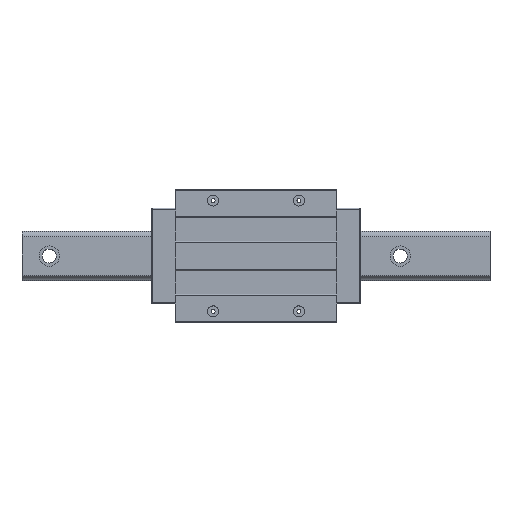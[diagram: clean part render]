
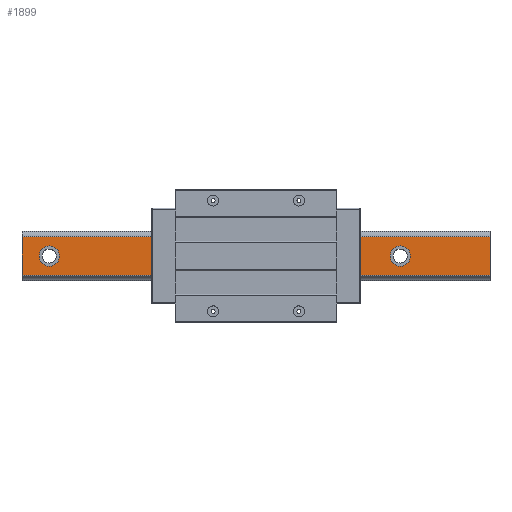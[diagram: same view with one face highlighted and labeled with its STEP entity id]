
A CAD part, top view. The second image highlights one B-rep face of the part: STEP entity #1899.
In plain terms, the highlighted planar face has unit normal (0, 0, 1).
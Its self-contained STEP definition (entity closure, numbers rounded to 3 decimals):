
#42 = DIRECTION ( 'NONE',  ( 0., 0., -1. ) ) ;
#174 = EDGE_CURVE ( 'NONE', #2444, #2976, #317, .T. ) ;
#317 = CIRCLE ( 'NONE', #2349, 13. ) ;
#326 = FACE_OUTER_BOUND ( 'NONE', #4029, .T. ) ;
#415 = CARTESIAN_POINT ( 'NONE',  ( -300., -24.864, 53. ) ) ;
#463 = ORIENTED_EDGE ( 'NONE', *, *, #606, .T. ) ;
#481 = EDGE_CURVE ( 'NONE', #3553, #2355, #3614, .T. ) ;
#525 = LINE ( 'NONE', #2052, #3645 ) ;
#606 = EDGE_CURVE ( 'NONE', #4255, #4557, #525, .T. ) ;
#621 = CARTESIAN_POINT ( 'NONE',  ( 198., 0., 53. ) ) ;
#624 = DIRECTION ( 'NONE',  ( 0., 0., -1. ) ) ;
#643 = LINE ( 'NONE', #2161, #3735 ) ;
#666 = LINE ( 'NONE', #2189, #3377 ) ;
#720 = EDGE_CURVE ( 'NONE', #3025, #2281, #3722, .T. ) ;
#727 = VERTEX_POINT ( 'NONE', #621 ) ;
#755 = EDGE_CURVE ( 'NONE', #1984, #4255, #643, .T. ) ;
#792 = CARTESIAN_POINT ( 'NONE',  ( 300., -24.864, 53. ) ) ;
#797 = EDGE_CURVE ( 'NONE', #1984, #2110, #666, .T. ) ;
#894 = EDGE_LOOP ( 'NONE', ( #3185, #1217 ) ) ;
#897 = CARTESIAN_POINT ( 'NONE',  ( -128., 0., 53. ) ) ;
#907 = CIRCLE ( 'NONE', #1764, 13. ) ;
#952 = EDGE_CURVE ( 'NONE', #727, #3578, #2905, .T. ) ;
#979 = DIRECTION ( 'NONE',  ( 0., 0., -1. ) ) ;
#1009 = CARTESIAN_POINT ( 'NONE',  ( 185., 0., 53. ) ) ;
#1059 = ORIENTED_EDGE ( 'NONE', *, *, #2123, .T. ) ;
#1115 = DIRECTION ( 'NONE',  ( 0., 0., -1. ) ) ;
#1116 = DIRECTION ( 'NONE',  ( 0., 0., -1. ) ) ;
#1171 = CARTESIAN_POINT ( 'NONE',  ( 48., 0., 53. ) ) ;
#1179 = DIRECTION ( 'NONE',  ( -1., 0., 0. ) ) ;
#1191 = ORIENTED_EDGE ( 'NONE', *, *, #797, .F. ) ;
#1217 = ORIENTED_EDGE ( 'NONE', *, *, #952, .T. ) ;
#1367 = DIRECTION ( 'NONE',  ( 0., 0., -1. ) ) ;
#1484 = FACE_BOUND ( 'NONE', #4928, .T. ) ;
#1521 = ORIENTED_EDGE ( 'NONE', *, *, #2920, .T. ) ;
#1565 = DIRECTION ( 'NONE',  ( -1., 0., 0. ) ) ;
#1680 = ORIENTED_EDGE ( 'NONE', *, *, #481, .T. ) ;
#1717 = AXIS2_PLACEMENT_3D ( 'NONE', #1769, #3302, #4837 ) ;
#1719 = CIRCLE ( 'NONE', #1717, 13. ) ;
#1764 = AXIS2_PLACEMENT_3D ( 'NONE', #1009, #2526, #4072 ) ;
#1769 = CARTESIAN_POINT ( 'NONE',  ( -115., 0., 53. ) ) ;
#1850 = FACE_BOUND ( 'NONE', #894, .T. ) ;
#1899 = ADVANCED_FACE ( 'NONE', ( #326, #1850, #3384, #4917, #1484 ), #3006, .F. ) ;
#1955 = AXIS2_PLACEMENT_3D ( 'NONE', #3065, #4605, #1179 ) ;
#1984 = VERTEX_POINT ( 'NONE', #3847 ) ;
#2052 = CARTESIAN_POINT ( 'NONE',  ( -300., 0., 53. ) ) ;
#2099 = EDGE_CURVE ( 'NONE', #3578, #727, #907, .T. ) ;
#2110 = VERTEX_POINT ( 'NONE', #2149 ) ;
#2123 = EDGE_CURVE ( 'NONE', #2355, #3553, #1719, .T. ) ;
#2142 = DIRECTION ( 'NONE',  ( -1., 0., 0. ) ) ;
#2149 = CARTESIAN_POINT ( 'NONE',  ( 300., -24.864, 53. ) ) ;
#2161 = CARTESIAN_POINT ( 'NONE',  ( 300., 24.864, 53. ) ) ;
#2189 = CARTESIAN_POINT ( 'NONE',  ( 300., 25.2, 53. ) ) ;
#2208 = ORIENTED_EDGE ( 'NONE', *, *, #720, .T. ) ;
#2263 = CARTESIAN_POINT ( 'NONE',  ( 22., 0., 53. ) ) ;
#2281 = VERTEX_POINT ( 'NONE', #2520 ) ;
#2282 = EDGE_CURVE ( 'NONE', #2281, #3025, #3884, .T. ) ;
#2306 = ORIENTED_EDGE ( 'NONE', *, *, #755, .T. ) ;
#2308 = DIRECTION ( 'NONE',  ( 1., 0., 0. ) ) ;
#2349 = AXIS2_PLACEMENT_3D ( 'NONE', #4408, #979, #2500 ) ;
#2355 = VERTEX_POINT ( 'NONE', #4476 ) ;
#2444 = VERTEX_POINT ( 'NONE', #2263 ) ;
#2500 = DIRECTION ( 'NONE',  ( -1., 0., 0. ) ) ;
#2520 = CARTESIAN_POINT ( 'NONE',  ( -252., 0., 53. ) ) ;
#2524 = ORIENTED_EDGE ( 'NONE', *, *, #3000, .T. ) ;
#2526 = DIRECTION ( 'NONE',  ( 0., 0., -1. ) ) ;
#2628 = DIRECTION ( 'NONE',  ( 0., -1., 0. ) ) ;
#2629 = DIRECTION ( 'NONE',  ( -1., 0., 0. ) ) ;
#2706 = EDGE_LOOP ( 'NONE', ( #1680, #1059 ) ) ;
#2885 = DIRECTION ( 'NONE',  ( -1., 0., 0. ) ) ;
#2905 = CIRCLE ( 'NONE', #2912, 13. ) ;
#2912 = AXIS2_PLACEMENT_3D ( 'NONE', #3466, #42, #1565 ) ;
#2920 = EDGE_CURVE ( 'NONE', #2976, #2444, #4520, .T. ) ;
#2976 = VERTEX_POINT ( 'NONE', #1171 ) ;
#3000 = EDGE_CURVE ( 'NONE', #4557, #2110, #4233, .T. ) ;
#3003 = ORIENTED_EDGE ( 'NONE', *, *, #2282, .T. ) ;
#3006 = PLANE ( 'NONE',  #3218 ) ;
#3025 = VERTEX_POINT ( 'NONE', #3042 ) ;
#3042 = CARTESIAN_POINT ( 'NONE',  ( -278., 0., 53. ) ) ;
#3065 = CARTESIAN_POINT ( 'NONE',  ( -115., 0., 53. ) ) ;
#3185 = ORIENTED_EDGE ( 'NONE', *, *, #2099, .T. ) ;
#3218 = AXIS2_PLACEMENT_3D ( 'NONE', #4542, #1115, #2628 ) ;
#3302 = DIRECTION ( 'NONE',  ( 0., 0., -1. ) ) ;
#3377 = VECTOR ( 'NONE', #3733, 1000. ) ;
#3384 = FACE_BOUND ( 'NONE', #3846, .T. ) ;
#3466 = CARTESIAN_POINT ( 'NONE',  ( 185., 0., 53. ) ) ;
#3553 = VERTEX_POINT ( 'NONE', #897 ) ;
#3578 = VERTEX_POINT ( 'NONE', #4723 ) ;
#3585 = DIRECTION ( 'NONE',  ( 0., -1., 0. ) ) ;
#3614 = CIRCLE ( 'NONE', #1955, 13. ) ;
#3645 = VECTOR ( 'NONE', #3585, 1000. ) ;
#3703 = DIRECTION ( 'NONE',  ( -1., 0., 0. ) ) ;
#3722 = CIRCLE ( 'NONE', #3726, 13. ) ;
#3726 = AXIS2_PLACEMENT_3D ( 'NONE', #4805, #1367, #2885 ) ;
#3733 = DIRECTION ( 'NONE',  ( 0., -1., 0. ) ) ;
#3735 = VECTOR ( 'NONE', #3703, 1000. ) ;
#3846 = EDGE_LOOP ( 'NONE', ( #3870, #1521 ) ) ;
#3847 = CARTESIAN_POINT ( 'NONE',  ( 300., 24.864, 53. ) ) ;
#3870 = ORIENTED_EDGE ( 'NONE', *, *, #174, .T. ) ;
#3884 = CIRCLE ( 'NONE', #3888, 13. ) ;
#3888 = AXIS2_PLACEMENT_3D ( 'NONE', #4063, #624, #2142 ) ;
#4016 = CARTESIAN_POINT ( 'NONE',  ( -300., 24.864, 53. ) ) ;
#4029 = EDGE_LOOP ( 'NONE', ( #1191, #2306, #463, #2524 ) ) ;
#4063 = CARTESIAN_POINT ( 'NONE',  ( -265., 0., 53. ) ) ;
#4072 = DIRECTION ( 'NONE',  ( -1., 0., 0. ) ) ;
#4233 = LINE ( 'NONE', #792, #4651 ) ;
#4255 = VERTEX_POINT ( 'NONE', #4016 ) ;
#4408 = CARTESIAN_POINT ( 'NONE',  ( 35., 0., 53. ) ) ;
#4476 = CARTESIAN_POINT ( 'NONE',  ( -102., 0., 53. ) ) ;
#4520 = CIRCLE ( 'NONE', #4522, 13. ) ;
#4522 = AXIS2_PLACEMENT_3D ( 'NONE', #4545, #1116, #2629 ) ;
#4542 = CARTESIAN_POINT ( 'NONE',  ( 300., 0., 53. ) ) ;
#4545 = CARTESIAN_POINT ( 'NONE',  ( 35., 0., 53. ) ) ;
#4557 = VERTEX_POINT ( 'NONE', #415 ) ;
#4605 = DIRECTION ( 'NONE',  ( 0., 0., -1. ) ) ;
#4651 = VECTOR ( 'NONE', #2308, 1000. ) ;
#4723 = CARTESIAN_POINT ( 'NONE',  ( 172., 0., 53. ) ) ;
#4805 = CARTESIAN_POINT ( 'NONE',  ( -265., 0., 53. ) ) ;
#4837 = DIRECTION ( 'NONE',  ( -1., 0., 0. ) ) ;
#4917 = FACE_BOUND ( 'NONE', #2706, .T. ) ;
#4928 = EDGE_LOOP ( 'NONE', ( #2208, #3003 ) ) ;
